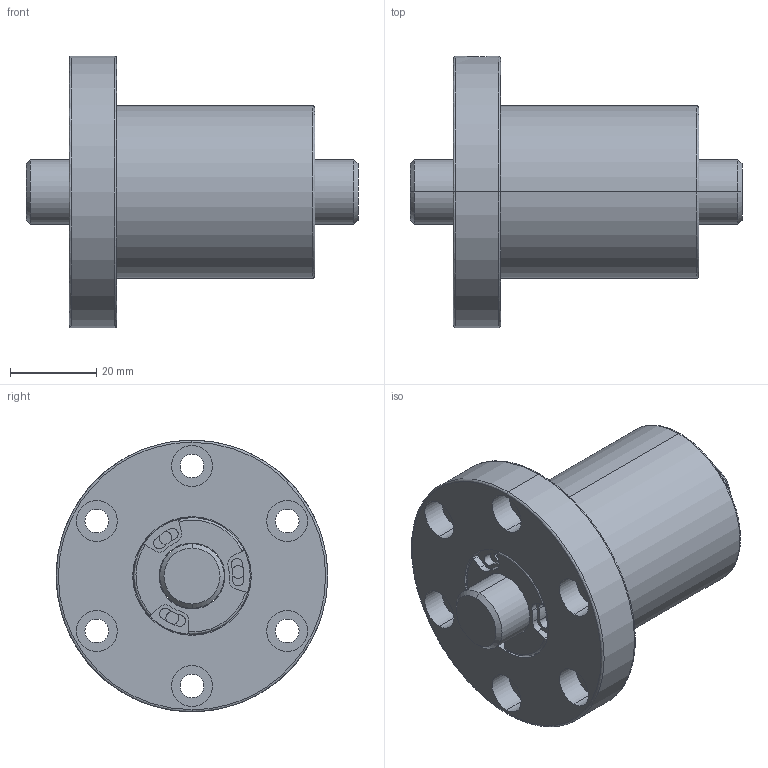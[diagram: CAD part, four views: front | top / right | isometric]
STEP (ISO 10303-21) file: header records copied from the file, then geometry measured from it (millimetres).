
FILE_DESCRIPTION (( 'STEP AP203' ), '1' );
FILE_NAME ('SFVSR01520A1N-C.STEP', '2020-06-17T04:01:26', ( '' ), ( '' ), 'SwSTEP 2.0', 'SolidWorks 2013', '' );
FILE_SCHEMA (( 'CONFIG_CONTROL_DESIGN' ));
Length unit declared in the file: millimetre
Products named in the file (1): SFVSR01520A1N-C
Bounding box: 77 x 63 x 63 mm (x, y, z)
Volume: 89090.6 mm3; surface area: 24211.8 mm2
Topology: 2 solids, 2 shells, 252 faces, 626 edges, 404 vertices
Faces by surface type: cylinder 146, plane 76, cone 16, bspline 14
Entity records: 8515 total; most frequent: CARTESIAN_POINT 2183, DIRECTION 1444, ORIENTED_EDGE 1252, EDGE_CURVE 626, AXIS2_PLACEMENT_3D 617, VERTEX_POINT 404, CIRCLE 378, EDGE_LOOP 296
